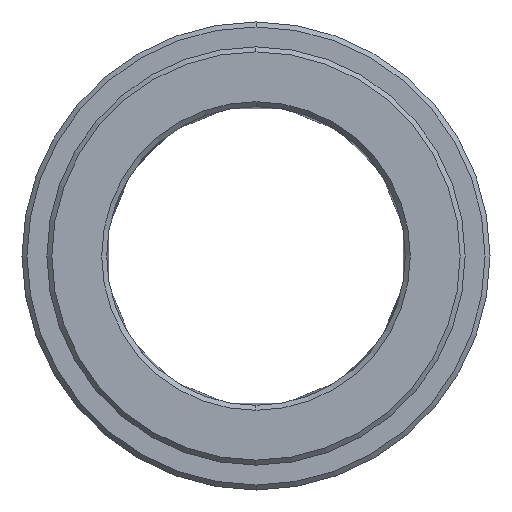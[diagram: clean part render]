
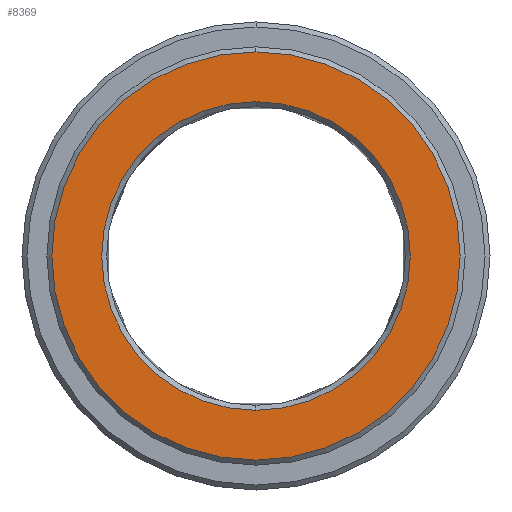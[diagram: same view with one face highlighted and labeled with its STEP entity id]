
A CAD part, left-side view. The second image highlights one B-rep face of the part: STEP entity #8369.
In plain terms, the highlighted planar face has unit normal (-1, 0, 0).
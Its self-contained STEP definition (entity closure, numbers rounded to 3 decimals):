
#5538=CARTESIAN_POINT('',(-8.,0.,
0.));
#5539=DIRECTION('',(1.,0.,0.));
#5540=DIRECTION('',(0.,0.,-1.));
#5541=AXIS2_PLACEMENT_3D('',#5538,#5539,#5540);
#5543=CARTESIAN_POINT('',(-8.,0.,
0.));
#5544=DIRECTION('',(1.,0.,0.));
#5545=DIRECTION('',(0.,0.,1.));
#5546=AXIS2_PLACEMENT_3D('',#5543,#5544,#5545);
#5548=CARTESIAN_POINT('',(-8.,0.,0.));
#5549=DIRECTION('',(1.,0.,0.));
#5550=DIRECTION('',(0.,0.,-1.));
#5551=AXIS2_PLACEMENT_3D('',#5548,#5549,#5550);
#5553=CARTESIAN_POINT('',(-8.,0.,
0.));
#5554=DIRECTION('',(1.,0.,0.));
#5555=DIRECTION('',(0.,0.,1.));
#5556=AXIS2_PLACEMENT_3D('',#5553,#5554,#5555);
#5920=CARTESIAN_POINT('',(-8.,0.,-15.5));
#5921=CARTESIAN_POINT('',(-8.,0.,15.5));
#5922=VERTEX_POINT('',#5920);
#5923=VERTEX_POINT('',#5921);
#5928=CARTESIAN_POINT('',(-8.,0.,-20.5));
#5929=CARTESIAN_POINT('',(-8.,0.,20.5));
#5930=VERTEX_POINT('',#5928);
#5931=VERTEX_POINT('',#5929);
#8354=CARTESIAN_POINT('',(-8.,0.,0.));
#8355=DIRECTION('',(1.,0.,0.));
#8356=DIRECTION('',(0.,0.,1.));
#8357=AXIS2_PLACEMENT_3D('',#8354,#8355,#8356);
#8358=PLANE('',#8357);
#8359=ORIENTED_EDGE('',*,*,#8336,.T.);
#8360=ORIENTED_EDGE('',*,*,#8321,.T.);
#8361=EDGE_LOOP('',(#8359,#8360));
#8362=FACE_OUTER_BOUND('',#8361,.F.);
#8364=ORIENTED_EDGE('',*,*,#8363,.F.);
#8366=ORIENTED_EDGE('',*,*,#8365,.F.);
#8367=EDGE_LOOP('',(#8364,#8366));
#8368=FACE_BOUND('',#8367,.F.);
#8369=ADVANCED_FACE('',(#8362,#8368),#8358,.F.);
#5542=CIRCLE('',#5541,20.5);
#5547=CIRCLE('',#5546,20.5);
#5552=CIRCLE('',#5551,15.5);
#5557=CIRCLE('',#5556,15.5);
#8321=EDGE_CURVE('',#5931,#5930,#5547,.T.);
#8336=EDGE_CURVE('',#5930,#5931,#5542,.T.);
#8363=EDGE_CURVE('',#5922,#5923,#5552,.T.);
#8365=EDGE_CURVE('',#5923,#5922,#5557,.T.);
